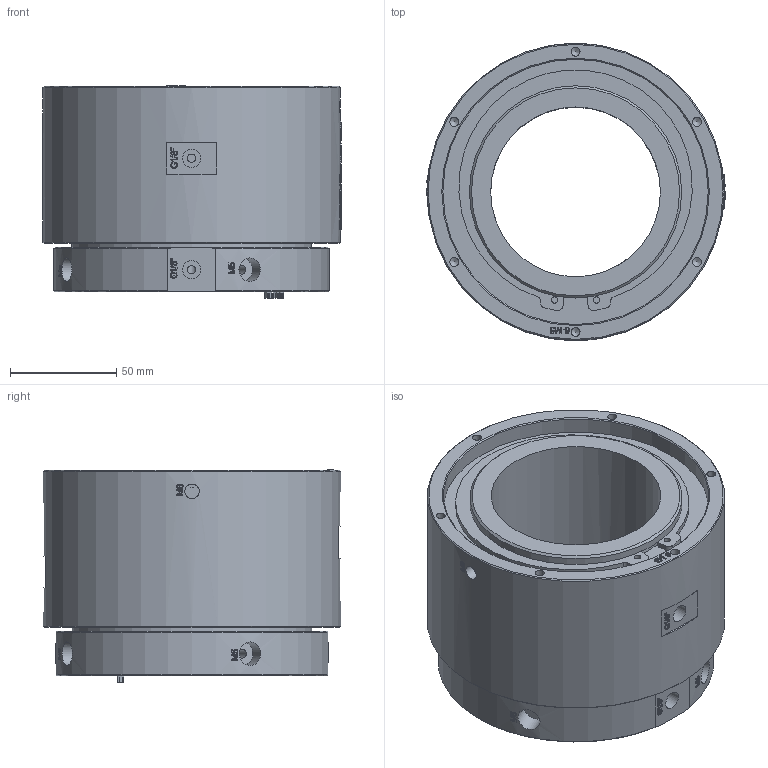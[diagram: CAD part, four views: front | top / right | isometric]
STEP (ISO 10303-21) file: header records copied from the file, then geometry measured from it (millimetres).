
FILE_DESCRIPTION(/* description */ (''),/* implementation_level */ '2;1');
FILE_NAME(/* name */ 'YQ0201-D80-3D模型.stp',/* time_stamp */ '2025-08-05T14:13:04+08:00',/* author */ (''),/* organization */ (''),/* preprocessor_version */ 'ST-DEVELOPER v16.7',/* originating_system */ 'SIEMENS PLM Software NX 12.0',/* authorisation */ '');
FILE_SCHEMA (('AUTOMOTIVE_DESIGN { 1 0 10303 214 3 1 1 1 }'));
Products named in the file (1): Admi16E026DChx3w
Bounding box: 140.57 x 140 x 100.2 mm (x, y, z)
Volume: 904398.1 mm3; surface area: 106903.7 mm2
Topology: 1 solids, 1 shells, 1583 faces, 4353 edges, 2901 vertices
Faces by surface type: extrusion 907, plane 512, cylinder 77, bspline 69, cone 18
Full cylindrical faces by diameter (mm): 3 x2, 4 x6, 4.1 x2, 4.2 x12, 6.8 x2, 7 x4, 8.5 x4, 11.125 x4, 80 x1, 96.5 x1, 100 x1, 113 x1, 125 x1, 140 x1
Entity records: 62576 total; most frequent: CARTESIAN_POINT 29285, ORIENTED_EDGE 8524, B_SPLINE_CURVE_WITH_KNOTS 4310, EDGE_CURVE 4262, DIRECTION 3293, VERTEX_POINT 2881, EDGE_LOOP 1783, ADVANCED_FACE 1583
